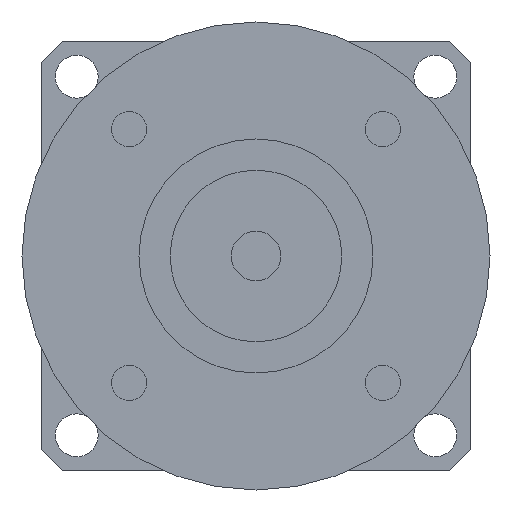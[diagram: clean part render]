
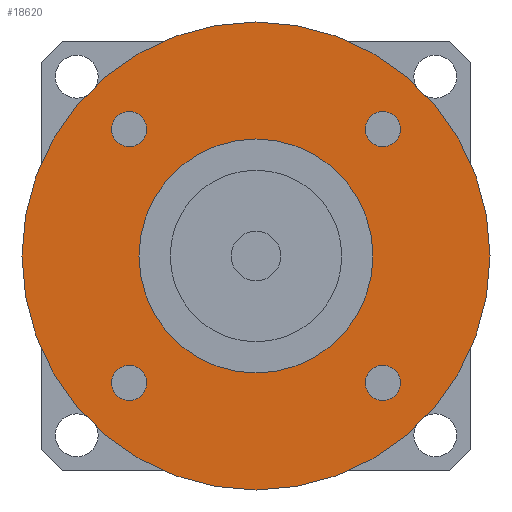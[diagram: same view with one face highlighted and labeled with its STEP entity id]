
A CAD part, left-side view. The second image highlights one B-rep face of the part: STEP entity #18620.
In plain terms, the highlighted planar face has unit normal (-1, 0, 0) as drawn and (0, 0, -1) by its records, which use the part's own axes.
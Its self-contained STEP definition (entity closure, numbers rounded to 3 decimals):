
#11090=CARTESIAN_POINT('',(-14.013,-16.263,-58.));
#11100=VERTEX_POINT('',#11090);
#11280=CARTESIAN_POINT('',(-18.513,-16.263,-58.));
#11290=VERTEX_POINT('',#11280);
#11320=CARTESIAN_POINT('',(-16.263,-16.263,-58.));
#11330=DIRECTION('',(0.,0.,-1.));
#11340=DIRECTION('',(0.,-1.,0.));
#11350=AXIS2_PLACEMENT_3D('',#11320,#11330,#11340);
#11360=CIRCLE('',#11350,2.25);
#11370=CARTESIAN_POINT('',(-16.263,-18.513,-58.));
#11380=VERTEX_POINT('',#11370);
#11390=EDGE_CURVE('',#11380,#11290,#11360,.T.);
#11410=EDGE_CURVE('',#11100,#11380,#11360,.T.);
#12600=CARTESIAN_POINT('',(0.,0.,
-58.));
#12610=DIRECTION('',(0.,0.,1.));
#12620=DIRECTION('',(0.,-1.,0.));
#12630=AXIS2_PLACEMENT_3D('',#12600,#12610,#12620);
#12640=CIRCLE('',#12630,15.);
#12650=CARTESIAN_POINT('',(0.,-15.,-58.));
#12660=VERTEX_POINT('',#12650);
#12670=CARTESIAN_POINT('',(15.,0.,-58.));
#12680=VERTEX_POINT('',#12670);
#12690=EDGE_CURVE('',#12660,#12680,#12640,.T.);
#12920=CARTESIAN_POINT('',(-15.,0.,-58.));
#12930=VERTEX_POINT('',#12920);
#12960=EDGE_CURVE('',#12930,#12660,#12640,.T.);
#17550=CARTESIAN_POINT('',(30.,0.,-58.));
#17560=VERTEX_POINT('',#17550);
#17590=CARTESIAN_POINT('',(0.,0.,
-58.));
#17600=DIRECTION('',(0.,0.,1.));
#17610=DIRECTION('',(0.,-1.,0.));
#17620=AXIS2_PLACEMENT_3D('',#17590,#17600,#17610);
#17630=CIRCLE('',#17620,30.);
#17640=CARTESIAN_POINT('',(0.,-30.,-58.));
#17650=VERTEX_POINT('',#17640);
#17660=EDGE_CURVE('',#17650,#17560,#17630,.T.);
#17680=CARTESIAN_POINT('',(-30.,0.,-58.));
#17690=VERTEX_POINT('',#17680);
#17700=EDGE_CURVE('',#17690,#17650,#17630,.T.);
#17820=CARTESIAN_POINT('',(0.,0.,
-58.));
#17830=DIRECTION('',(0.,0.,1.));
#17840=DIRECTION('',(-1.,0.,0.));
#17850=AXIS2_PLACEMENT_3D('',#17820,#17830,#17840);
#17860=PLANE('',#17850);
#17870=CARTESIAN_POINT('',(16.263,-16.263,-58.));
#17880=DIRECTION('',(0.,0.,-1.));
#17890=DIRECTION('',(1.,0.,0.));
#17900=AXIS2_PLACEMENT_3D('',#17870,#17880,#17890);
#17910=CIRCLE('',#17900,2.25);
#17920=CARTESIAN_POINT('',(18.513,-16.263,-58.));
#17930=VERTEX_POINT('',#17920);
#17940=CARTESIAN_POINT('',(16.263,-18.513,-58.));
#17950=VERTEX_POINT('',#17940);
#17960=EDGE_CURVE('',#17930,#17950,#17910,.T.);
#17970=ORIENTED_EDGE('',*,*,#17960,.F.);
#17980=CARTESIAN_POINT('',(16.263,-14.013,-58.));
#17990=VERTEX_POINT('',#17980);
#18000=EDGE_CURVE('',#17950,#17990,#17910,.T.);
#18010=ORIENTED_EDGE('',*,*,#18000,.F.);
#18020=EDGE_CURVE('',#17990,#17930,#17910,.T.);
#18030=ORIENTED_EDGE('',*,*,#18020,.F.);
#18040=EDGE_LOOP('',(#18030,#18010,#17970));
#18050=FACE_BOUND('',#18040,.T.);
#18060=CARTESIAN_POINT('',(16.263,16.263,-58.));
#18070=DIRECTION('',(0.,0.,-1.));
#18080=DIRECTION('',(0.,1.,0.));
#18090=AXIS2_PLACEMENT_3D('',#18060,#18070,#18080);
#18100=CIRCLE('',#18090,2.25);
#18110=CARTESIAN_POINT('',(16.263,18.513,-58.));
#18120=VERTEX_POINT('',#18110);
#18130=CARTESIAN_POINT('',(18.513,16.263,-58.));
#18140=VERTEX_POINT('',#18130);
#18150=EDGE_CURVE('',#18120,#18140,#18100,.T.);
#18160=ORIENTED_EDGE('',*,*,#18150,.F.);
#18170=CARTESIAN_POINT('',(14.013,16.263,-58.));
#18180=VERTEX_POINT('',#18170);
#18190=EDGE_CURVE('',#18140,#18180,#18100,.T.);
#18200=ORIENTED_EDGE('',*,*,#18190,.F.);
#18210=EDGE_CURVE('',#18180,#18120,#18100,.T.);
#18220=ORIENTED_EDGE('',*,*,#18210,.F.);
#18230=EDGE_LOOP('',(#18220,#18200,#18160));
#18240=FACE_BOUND('',#18230,.T.);
#18250=CARTESIAN_POINT('',(-16.263,16.263,-58.));
#18260=DIRECTION('',(0.,0.,-1.));
#18270=DIRECTION('',(-1.,0.,0.));
#18280=AXIS2_PLACEMENT_3D('',#18250,#18260,#18270);
#18290=CIRCLE('',#18280,2.25);
#18300=CARTESIAN_POINT('',(-18.513,16.263,-58.));
#18310=VERTEX_POINT('',#18300);
#18320=CARTESIAN_POINT('',(-16.263,18.513,-58.));
#18330=VERTEX_POINT('',#18320);
#18340=EDGE_CURVE('',#18310,#18330,#18290,.T.);
#18350=ORIENTED_EDGE('',*,*,#18340,.F.);
#18360=CARTESIAN_POINT('',(-16.263,14.013,-58.));
#18370=VERTEX_POINT('',#18360);
#18380=EDGE_CURVE('',#18330,#18370,#18290,.T.);
#18390=ORIENTED_EDGE('',*,*,#18380,.F.);
#18400=EDGE_CURVE('',#18370,#18310,#18290,.T.);
#18410=ORIENTED_EDGE('',*,*,#18400,.F.);
#18420=EDGE_LOOP('',(#18410,#18390,#18350));
#18430=FACE_BOUND('',#18420,.T.);
#18440=ORIENTED_EDGE('',*,*,#11390,.F.);
#18450=EDGE_CURVE('',#11290,#11100,#11360,.T.);
#18460=ORIENTED_EDGE('',*,*,#18450,.F.);
#18470=ORIENTED_EDGE('',*,*,#11410,.F.);
#18480=EDGE_LOOP('',(#18470,#18460,#18440));
#18490=FACE_BOUND('',#18480,.T.);
#18500=ORIENTED_EDGE('',*,*,#17660,.F.);
#18510=EDGE_CURVE('',#17560,#17690,#17630,.T.);
#18520=ORIENTED_EDGE('',*,*,#18510,.F.);
#18530=ORIENTED_EDGE('',*,*,#17700,.F.);
#18540=EDGE_LOOP('',(#18530,#18520,#18500));
#18550=FACE_OUTER_BOUND('',#18540,.T.);
#18560=EDGE_CURVE('',#12680,#12930,#12640,.T.);
#18570=ORIENTED_EDGE('',*,*,#18560,.T.);
#18580=ORIENTED_EDGE('',*,*,#12690,.T.);
#18590=ORIENTED_EDGE('',*,*,#12960,.T.);
#18600=EDGE_LOOP('',(#18590,#18580,#18570));
#18610=FACE_BOUND('',#18600,.T.);
#18620=ADVANCED_FACE('',(#18050,#18240,#18430,#18490,#18550,#18610),
#17860,.F.);
